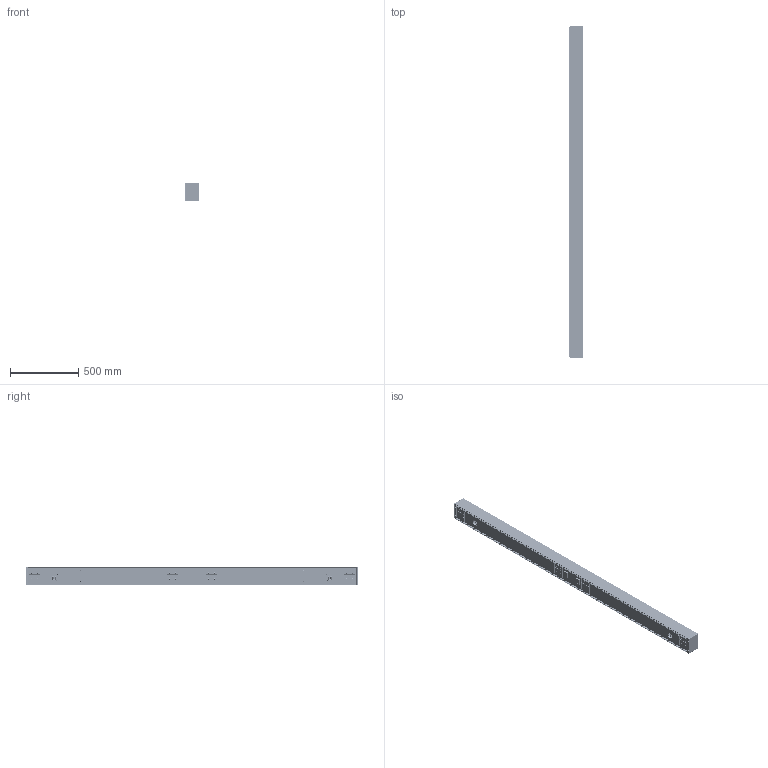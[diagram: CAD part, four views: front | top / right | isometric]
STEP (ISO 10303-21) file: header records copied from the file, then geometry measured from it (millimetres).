
FILE_DESCRIPTION (( 'STEP AP203' ), '1' );
FILE_NAME ('943200 RevA P3m-LR Assembly.STEP', '2026-06-25T18:05:24', ( '' ), ( '' ), 'SwSTEP 2.0', 'SolidWorks 2026', '' );
FILE_SCHEMA (( 'CONFIG_CONTROL_DESIGN' ));
Length unit declared in the file: inch
Products named in the file (59): 161000 Terminal Cup 3 Inch OD Push Terminals; 943200 RevA P3m-LR Assembly; 149520-02 RevA3 P3m Grill Magnet; 151500 RevA P3m-LR Back Box; 149520-04 RevA P3m Phase Plug Gasket_Compressed; Terminal Cup; 149520-05 RevA P3m PMD Gasket_Compressed; 149520-01 RevA2 P3m Front Driver Baffle; 200003-1-1-solid1_1; 3in SA Fiber Board Assy; 120260 Nut Nylock 8-32 Stainless Steel_91831A009; 149510-02 RevA P3m Woofer Gasket_Compressed; 149550 RevA P3m End Cap; WF118WA07_08; 149560 RevA P3m VESA Mounting Block; 100064-1-solid1_1; 120630 Screw 8-32x1-1_2 FH Phillips Blk_96640A168; 406500 RevE Bracket Onwall Speaker Portion; Color Dot_Black. >; 260074-1-solid1_1; Color Dot; 149510-03 SI ITB-832_SI ITB-832; PMD tweeter housing ASSY Rev H; 149540 RevA P3m Internal Divider Block; 220190 RevA P3m Crossover; 120670 Screw 8-32x5_8 FH Phil Blk Zinc_96640A127; 403170 RevA P3m Back Mounting Gasket; 200003-3-2-solid1_1; 149520-03 RevA P3m Front Driver Baffle Gasket_Compressed; 230042-1-solid1_1; 149510-04 SI IUTFB-632_SI IUTFB-632; TBD RevA P3m Module Assembly; 110047-2-solid1_1; 220068 60 degree-1-solid1_1; 370038-1-solid1_1; Terminal Post; 151510 RevA P3m-LR Filler Plate; 149530 RevA Bass Driver 4-1_2in Clamp Ring; 260074-1-solid2_1; 403170 RevA P3m Back Mounting Gasket_End Caps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
Assembly tree (281 placements, depth 5):
  943200 RevA P3m-LR Assembly
    151500 RevA P3m-LR Back Box
    151510 RevA P3m-LR Filler Plate
    149500 RevA P3m Perf Grill
    403170 RevA P3m Back Mounting Gasket  x2
    TBD RevA P3m Module Assembly  x2
      149520 RevA3 P3m Front Driver Baffle Assembly_Compressed Gasket
        149520-01 RevA2 P3m Front Driver Baffle
        149520-02 RevA3 P3m Grill Magnet  x14
        149520-03 RevA P3m Front Driver Baffle Gasket_Compressed
        149520-04 RevA P3m Phase Plug Gasket_Compressed  x2
        149520-05 RevA P3m PMD Gasket_Compressed
      149510 RevA1 P3m Woofer Phase Plug Assembly_Compressed Gasket
        149510-01 RevA1 P3m Woofer Phase Plug
        149510-04 SI IUTFB-632_SI IUTFB-632  x2
        149510-03 SI ITB-832_SI ITB-832  x4
        149510-02 RevA P3m Woofer Gasket_Compressed
      WF118WA07_08
        220068 60 degree-1-solid1_1
        200003-4-1-solid1_1
        260074-1-solid2_1
        200003-2-1-solid1_1
        200003-1-1-solid1_1
        360078-1-solid1_1
        370038-1-solid1_1
        260074-1-solid1_1
        110047-2-solid1_1
        310005-2-solid1_1
        200003-3-2-solid1_1
        230042-1-solid1_1
        100064-1-solid1_1
      149530 RevA Bass Driver 4-1_2in Clamp Ring
      220190 RevA P3m Crossover
      PMD tweeter housing ASSY Rev H
        PMD tweeter Front Plate flat sealing Rev H
        Sprial PMD housing Rev H
        3in SA Fiber Board Assy
          Connector DC Jack Fiber Board
      121310 Screw 6-32x3_8 FH Philips Blk SS_96640A115
      120630 Screw 8-32x1-1_2 FH Phillips Blk_96640A168
      120950 Nut KEP 8-32 Zinc_90675A009
      121540 Washer #8 Oversized Black Oxide SS_96659A129
      190250 RevA P3m Resonator Damping Foam_Compressed
    120560 Screw 8-32x1_2 FH Phillips Blk Oxide SS_96640A126  x50
    5862K103_0.250Dx0.125t Neodymium Magnet_5862K103  x54
    149550 RevA P3m End Cap  x2
    403170 RevA P3m Back Mounting Gasket_End Caps  x2
    120110 Screw 8-32x3_8 Pan Phil MS Stl Blk Zinc_91249A192  x32
    149560 RevA P3m VESA Mounting Block  x2
    120670 Screw 8-32x5_8 FH Phil Blk Zinc_96640A127  x12
    406500 RevE Bracket Onwall Speaker Portion  x4
    161000 Terminal Cup 3 Inch OD Push Terminals  x2
      Terminal Cup
      Terminal Post
      Color Dot
      Color Dot_Black. >
    190300 RevB Terminal Cup 3in Gasket_Compressed  x2
    120260 Nut Nylock 8-32 Stainless Steel_91831A009  x8
    149540 RevA P3m Internal Divider Block  x2
Bounding box: 98.56 x 2438.4 x 133.35 mm (x, y, z)
Volume: 6744442.2 mm3; surface area: 4529119.3 mm2
Topology: 433 solids, 433 shells, 18533 faces, 47544 edges, 30104 vertices
Faces by surface type: plane 5695, cylinder 4268, cone 4152, bspline 2322, torus 1974, sphere 122
Entity records: 150336 total; most frequent: CARTESIAN_POINT 48733, DIRECTION 19025, ORIENTED_EDGE 18594, EDGE_CURVE 9297, AXIS2_PLACEMENT_3D 7944, VERTEX_POINT 5887, EDGE_LOOP 4402, CIRCLE 4361
